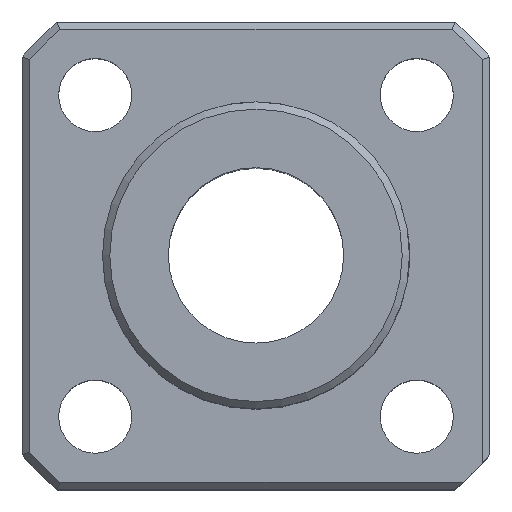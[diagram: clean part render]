
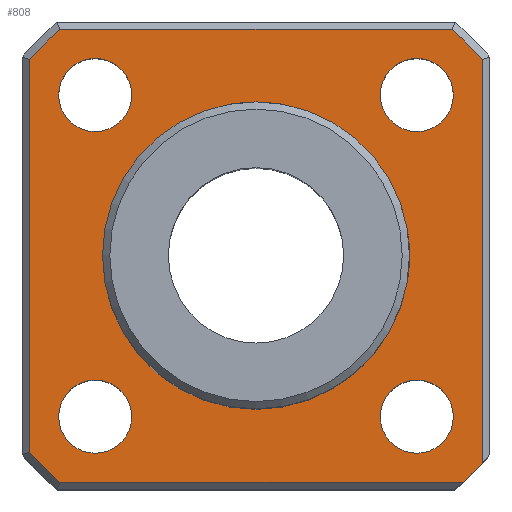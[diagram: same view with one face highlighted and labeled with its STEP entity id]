
A CAD part, top view. The second image highlights one B-rep face of the part: STEP entity #808.
In plain terms, the highlighted planar face has unit normal (0, 0, 1).
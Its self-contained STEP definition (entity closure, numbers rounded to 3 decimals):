
#531=CARTESIAN_POINT('',(14.169,-15.5,10.0));
#532=VERTEX_POINT('',#531);
#540=CARTESIAN_POINT('',(-13.416,-15.5,10.0));
#541=VERTEX_POINT('',#540);
#542=CARTESIAN_POINT('',(14.169,-15.5,10.0));
#543=DIRECTION('',(-1.0,0.0,0.0));
#544=VECTOR('',#543,27.585);
#545=LINE('',#542,#544);
#546=EDGE_CURVE('',#532,#541,#545,.T.);
#571=CARTESIAN_POINT('',(-15.5,-13.416,10.0));
#572=VERTEX_POINT('',#571);
#573=CARTESIAN_POINT('',(0.0,0.0,10.0));
#574=DIRECTION('',(0.0,0.0,-1.0));
#575=DIRECTION('',(-1.0,0.0,0.0));
#576=AXIS2_PLACEMENT_3D('',#573,#574,#575);
#577=CIRCLE('',#576,20.5);
#578=EDGE_CURVE('',#541,#572,#577,.T.);
#603=CARTESIAN_POINT('',(-15.5,13.416,10.0));
#604=VERTEX_POINT('',#603);
#605=CARTESIAN_POINT('',(-15.5,-13.416,10.0));
#606=DIRECTION('',(0.0,1.0,0.0));
#607=VECTOR('',#606,26.833);
#608=LINE('',#605,#607);
#609=EDGE_CURVE('',#572,#604,#608,.T.);
#628=CARTESIAN_POINT('',(-13.416,15.5,10.0));
#629=VERTEX_POINT('',#628);
#630=CARTESIAN_POINT('',(0.0,0.0,10.0));
#631=DIRECTION('',(0.0,0.0,-1.0));
#632=DIRECTION('',(-1.0,0.0,0.0));
#633=AXIS2_PLACEMENT_3D('',#630,#631,#632);
#634=CIRCLE('',#633,20.5);
#635=EDGE_CURVE('',#604,#629,#634,.T.);
#654=CARTESIAN_POINT('',(13.416,15.5,10.0));
#655=VERTEX_POINT('',#654);
#656=CARTESIAN_POINT('',(-13.416,15.5,10.0));
#657=DIRECTION('',(1.0,0.0,0.0));
#658=VECTOR('',#657,26.833);
#659=LINE('',#656,#658);
#660=EDGE_CURVE('',#629,#655,#659,.T.);
#679=CARTESIAN_POINT('',(15.5,13.416,10.0));
#680=VERTEX_POINT('',#679);
#681=CARTESIAN_POINT('',(0.0,0.0,10.0));
#682=DIRECTION('',(0.0,0.0,-1.0));
#683=DIRECTION('',(1.0,0.0,0.0));
#684=AXIS2_PLACEMENT_3D('',#681,#682,#683);
#685=CIRCLE('',#684,20.5);
#686=EDGE_CURVE('',#655,#680,#685,.T.);
#705=CARTESIAN_POINT('',(15.5,-14.169,10.0));
#706=VERTEX_POINT('',#705);
#723=CARTESIAN_POINT('',(15.5,13.416,10.0));
#724=DIRECTION('',(0.0,-1.0,0.0));
#725=VECTOR('',#724,27.585);
#726=LINE('',#723,#725);
#727=EDGE_CURVE('',#680,#706,#726,.T.);
#732=CARTESIAN_POINT('',(0.,0.,10.0));
#733=DIRECTION('',(0.0,0.0,1.0));
#734=DIRECTION('',(1.0,0.0,0.0));
#735=AXIS2_PLACEMENT_3D('',#732,#733,#734);
#736=PLANE('',#735);
#737=ORIENTED_EDGE('',*,*,#727,.F.);
#738=ORIENTED_EDGE('',*,*,#686,.F.);
#739=ORIENTED_EDGE('',*,*,#660,.F.);
#740=ORIENTED_EDGE('',*,*,#635,.F.);
#741=ORIENTED_EDGE('',*,*,#609,.F.);
#742=ORIENTED_EDGE('',*,*,#578,.F.);
#743=ORIENTED_EDGE('',*,*,#546,.F.);
#744=CARTESIAN_POINT('',(0.0,0.0,10.0));
#745=DIRECTION('',(0.0,0.0,-1.0));
#746=DIRECTION('',(1.0,0.0,0.0));
#747=AXIS2_PLACEMENT_3D('',#744,#745,#746);
#748=CIRCLE('',#747,21.0);
#749=EDGE_CURVE('',#706,#532,#748,.T.);
#750=ORIENTED_EDGE('',*,*,#749,.F.);
#751=EDGE_LOOP('',(#737,#738,#739,#740,#741,#742,#743,#750));
#752=FACE_OUTER_BOUND('',#751,.T.);
#753=CARTESIAN_POINT('',(10.5,0.,10.0));
#754=VERTEX_POINT('',#753);
#755=CARTESIAN_POINT('',(0.0,0.0,10.0));
#756=DIRECTION('',(0.0,0.0,-1.0));
#757=DIRECTION('',(-1.0,0.0,0.0));
#758=AXIS2_PLACEMENT_3D('',#755,#756,#757);
#759=CIRCLE('',#758,10.5);
#760=EDGE_CURVE('',#754,#754,#759,.T.);
#761=ORIENTED_EDGE('',*,*,#760,.T.);
#762=EDGE_LOOP('',(#761));
#763=FACE_BOUND('',#762,.T.);
#764=CARTESIAN_POINT('',(-13.5,11.0,10.0));
#765=VERTEX_POINT('',#764);
#766=CARTESIAN_POINT('',(-11.0,11.0,10.0));
#767=DIRECTION('',(0.0,0.0,-1.0));
#768=DIRECTION('',(1.0,0.0,0.0));
#769=AXIS2_PLACEMENT_3D('',#766,#767,#768);
#770=CIRCLE('',#769,2.5);
#771=EDGE_CURVE('',#765,#765,#770,.T.);
#772=ORIENTED_EDGE('',*,*,#771,.T.);
#773=EDGE_LOOP('',(#772));
#774=FACE_BOUND('',#773,.T.);
#775=CARTESIAN_POINT('',(8.5,11.0,10.0));
#776=VERTEX_POINT('',#775);
#777=CARTESIAN_POINT('',(11.0,11.0,10.0));
#778=DIRECTION('',(0.0,0.0,-1.0));
#779=DIRECTION('',(1.0,0.0,0.0));
#780=AXIS2_PLACEMENT_3D('',#777,#778,#779);
#781=CIRCLE('',#780,2.5);
#782=EDGE_CURVE('',#776,#776,#781,.T.);
#783=ORIENTED_EDGE('',*,*,#782,.T.);
#784=EDGE_LOOP('',(#783));
#785=FACE_BOUND('',#784,.T.);
#786=CARTESIAN_POINT('',(-13.5,-11.0,10.0));
#787=VERTEX_POINT('',#786);
#788=CARTESIAN_POINT('',(-11.0,-11.0,10.0));
#789=DIRECTION('',(0.0,0.0,-1.0));
#790=DIRECTION('',(1.0,0.0,0.0));
#791=AXIS2_PLACEMENT_3D('',#788,#789,#790);
#792=CIRCLE('',#791,2.5);
#793=EDGE_CURVE('',#787,#787,#792,.T.);
#794=ORIENTED_EDGE('',*,*,#793,.T.);
#795=EDGE_LOOP('',(#794));
#796=FACE_BOUND('',#795,.T.);
#797=CARTESIAN_POINT('',(8.5,-11.0,10.0));
#798=VERTEX_POINT('',#797);
#799=CARTESIAN_POINT('',(11.0,-11.0,10.0));
#800=DIRECTION('',(0.0,0.0,-1.0));
#801=DIRECTION('',(1.0,0.0,0.0));
#802=AXIS2_PLACEMENT_3D('',#799,#800,#801);
#803=CIRCLE('',#802,2.5);
#804=EDGE_CURVE('',#798,#798,#803,.T.);
#805=ORIENTED_EDGE('',*,*,#804,.T.);
#806=EDGE_LOOP('',(#805));
#807=FACE_BOUND('',#806,.T.);
#808=ADVANCED_FACE('',(#752,#763,#774,#785,#796,#807),#736,.T.);
